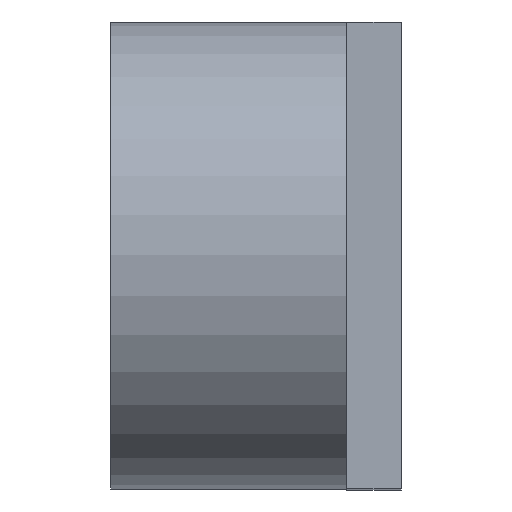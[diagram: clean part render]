
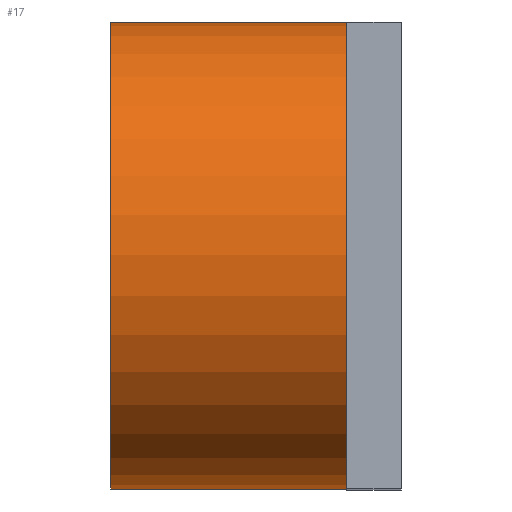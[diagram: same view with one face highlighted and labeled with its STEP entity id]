
A CAD part, top view. The second image highlights one B-rep face of the part: STEP entity #17.
In plain terms, the highlighted cylindrical face has radius 17 mm (diameter 34 mm), a full revolution.
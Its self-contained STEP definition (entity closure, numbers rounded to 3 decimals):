
#17 = ADVANCED_FACE('',(#18),#63,.T.);
#18 = FACE_BOUND('',#19,.T.);
#19 = EDGE_LOOP('',(#20,#31,#39,#46,#47,#56));
#20 = ORIENTED_EDGE('',*,*,#21,.F.);
#21 = EDGE_CURVE('',#22,#24,#26,.T.);
#22 = VERTEX_POINT('',#23);
#23 = CARTESIAN_POINT('',(95.,-108.,157.));
#24 = VERTEX_POINT('',#25);
#25 = CARTESIAN_POINT('',(95.,-125.,140.));
#26 = CIRCLE('',#27,17.);
#27 = AXIS2_PLACEMENT_3D('',#28,#29,#30);
#28 = CARTESIAN_POINT('',(95.,-108.,140.));
#29 = DIRECTION('',(1.,0.,-0.));
#30 = DIRECTION('',(0.,0.,1.));
#31 = ORIENTED_EDGE('',*,*,#32,.F.);
#32 = EDGE_CURVE('',#33,#22,#35,.T.);
#33 = VERTEX_POINT('',#34);
#34 = CARTESIAN_POINT('',(77.8,-108.,157.));
#35 = LINE('',#36,#37);
#36 = CARTESIAN_POINT('',(77.8,-108.,157.));
#37 = VECTOR('',#38,1.);
#38 = DIRECTION('',(1.,0.,0.));
#39 = ORIENTED_EDGE('',*,*,#40,.T.);
#40 = EDGE_CURVE('',#33,#33,#41,.T.);
#41 = CIRCLE('',#42,17.);
#42 = AXIS2_PLACEMENT_3D('',#43,#44,#45);
#43 = CARTESIAN_POINT('',(77.8,-108.,140.));
#44 = DIRECTION('',(1.,0.,-0.));
#45 = DIRECTION('',(0.,0.,1.));
#46 = ORIENTED_EDGE('',*,*,#32,.T.);
#47 = ORIENTED_EDGE('',*,*,#48,.F.);
#48 = EDGE_CURVE('',#49,#22,#51,.T.);
#49 = VERTEX_POINT('',#50);
#50 = CARTESIAN_POINT('',(95.,-91.,140.));
#51 = CIRCLE('',#52,17.);
#52 = AXIS2_PLACEMENT_3D('',#53,#54,#55);
#53 = CARTESIAN_POINT('',(95.,-108.,140.));
#54 = DIRECTION('',(1.,0.,-0.));
#55 = DIRECTION('',(0.,0.,1.));
#56 = ORIENTED_EDGE('',*,*,#57,.F.);
#57 = EDGE_CURVE('',#24,#49,#58,.T.);
#58 = CIRCLE('',#59,17.);
#59 = AXIS2_PLACEMENT_3D('',#60,#61,#62);
#60 = CARTESIAN_POINT('',(95.,-108.,140.));
#61 = DIRECTION('',(1.,0.,-0.));
#62 = DIRECTION('',(0.,0.,1.));
#63 = CYLINDRICAL_SURFACE('',#64,17.);
#64 = AXIS2_PLACEMENT_3D('',#65,#66,#67);
#65 = CARTESIAN_POINT('',(77.8,-108.,140.));
#66 = DIRECTION('',(1.,0.,0.));
#67 = DIRECTION('',(0.,0.,1.));
